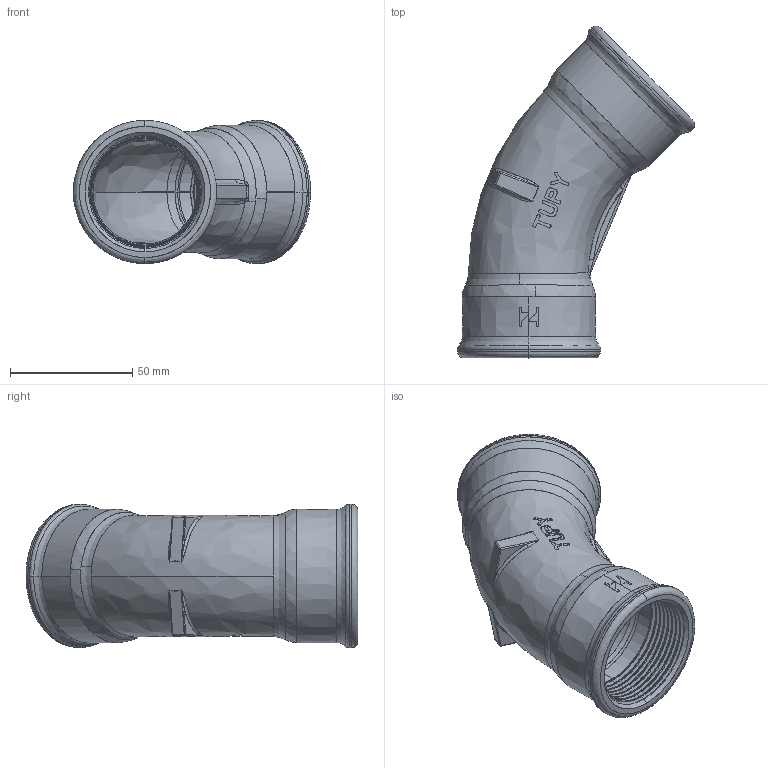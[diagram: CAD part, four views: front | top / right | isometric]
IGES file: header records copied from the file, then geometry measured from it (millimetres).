
Start section: SolidWorks IGES file using analytic representation for surfaces
Global section: file name: C:\Users\Joel Rosa\Desktop\Tubulação\12-26-OK\12-26-009.IGS; native system: SolidWorks 2011; preprocessor: SolidWorks 2011; author: Joel Rosa; date: 131025.203511; units: millimetre
Bounding box: 97.06 x 135.76 x 58.6 mm (x, y, z)
Surface area: 46181.6 mm2 (no closed solid volume)
Topology: 0 solids, 0 shells, 389 faces, 3504 edges, 3500 vertices
Faces by surface type: bspline 278, revolution 111
